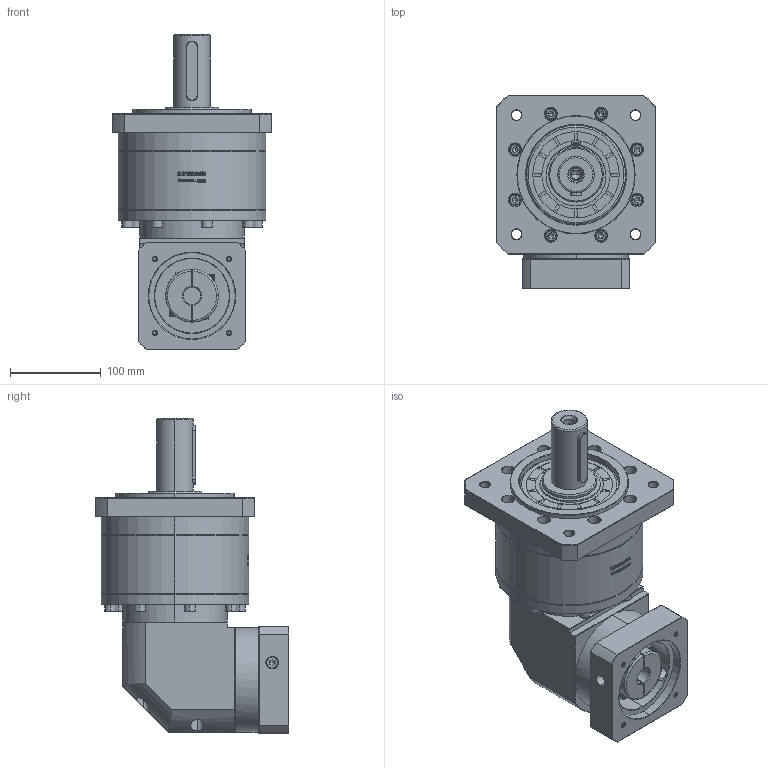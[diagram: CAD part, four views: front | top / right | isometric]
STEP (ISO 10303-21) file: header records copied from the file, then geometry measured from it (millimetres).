
FILE_DESCRIPTION (( 'STEP AP214' ), '1' );
FILE_NAME ('ZFR160A-D40-L2-19-95-115-M6.step', '2023-03-25T01:54:29', ( '' ), ( '' ), 'SwSTEP 2.0', 'SolidWorks 2016', '' );
FILE_SCHEMA (( 'AUTOMOTIVE_DESIGN' ));
Length unit declared in the file: millimetre
Products named in the file (1): ZFR160A-D40-L2-19-95-115-M6
Bounding box: 175 x 212.4 x 346.2 mm (x, y, z)
Volume: 4929838.6 mm3; surface area: 336081.8 mm2
Topology: 6 solids, 6 shells, 2771 faces, 7243 edges, 4644 vertices
Faces by surface type: plane 1372, bspline 501, cylinder 481, cone 371, torus 46
Entity records: 150663 total; most frequent: CARTESIAN_POINT 56357, ORIENTED_EDGE 14378, DIRECTION 11377, EDGE_CURVE 7189, VERTEX_POINT 4644, VECTOR 4483, LINE 4483, AXIS2_PLACEMENT_3D 3447
